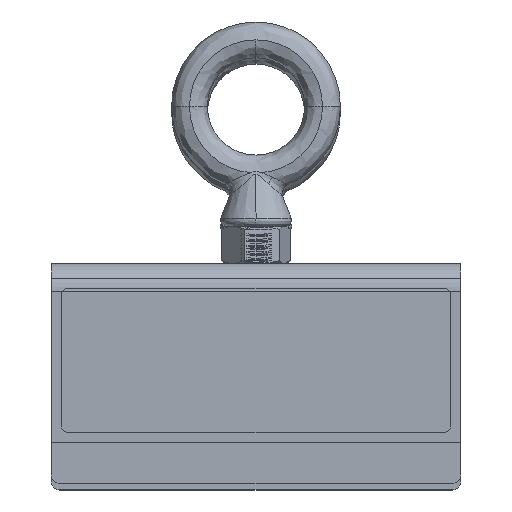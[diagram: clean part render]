
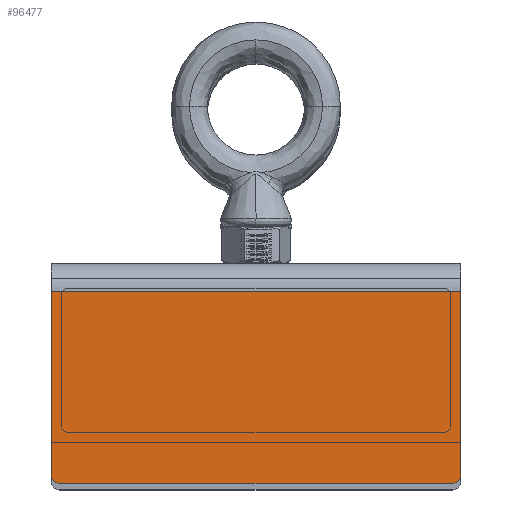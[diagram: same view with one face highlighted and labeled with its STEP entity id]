
A CAD part, top view. The second image highlights one B-rep face of the part: STEP entity #96477.
In plain terms, the highlighted planar face has unit normal (0, 0, 1).
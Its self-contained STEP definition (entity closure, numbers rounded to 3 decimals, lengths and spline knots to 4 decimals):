
#133 = CARTESIAN_POINT ( 'NONE',  ( 2.5, 1., 24.0005 ) ) ;
#2529 = DIRECTION ( 'NONE',  ( 0., 1., 0. ) ) ;
#3835 = VERTEX_POINT ( 'NONE', #30368 ) ;
#4125 = EDGE_LOOP ( 'NONE', ( #114649, #17346, #113183, #45850, #133785, #127035 ) ) ;
#9195 = LINE ( 'NONE', #40102, #62732 ) ;
#11768 = CARTESIAN_POINT ( 'NONE',  ( -2.5, 0.84, 24.0005 ) ) ;
#12325 = CARTESIAN_POINT ( 'NONE',  ( 2.4, -1.5, 24.0005 ) ) ;
#13198 = DIRECTION ( 'NONE',  ( 0., 0., 1. ) ) ;
#13964 = EDGE_CURVE ( 'NONE', #86504, #36439, #33387, .T. ) ;
#16541 = VERTEX_POINT ( 'NONE', #11768 ) ;
#17346 = ORIENTED_EDGE ( 'NONE', *, *, #13964, .T. ) ;
#20020 = VERTEX_POINT ( 'NONE', #39542 ) ;
#24750 = CIRCLE ( 'NONE', #92750, 0.1 ) ;
#26543 = DIRECTION ( 'NONE',  ( 0., -1., 0. ) ) ;
#30368 = CARTESIAN_POINT ( 'NONE',  ( -2.4, -1.5, 24.0005 ) ) ;
#31511 = DIRECTION ( 'NONE',  ( 0., 0., 1. ) ) ;
#33387 = CIRCLE ( 'NONE', #95516, 0.1 ) ;
#36439 = VERTEX_POINT ( 'NONE', #91477 ) ;
#39542 = CARTESIAN_POINT ( 'NONE',  ( 2.5, 0.84, 24.0005 ) ) ;
#39647 = AXIS2_PLACEMENT_3D ( 'NONE', #127734, #31511, #67066 ) ;
#39802 = EDGE_CURVE ( 'NONE', #16541, #20020, #82081, .T. ) ;
#40102 = CARTESIAN_POINT ( 'NONE',  ( -2.5, -1.5, 24.0005 ) ) ;
#41809 = LINE ( 'NONE', #122798, #66995 ) ;
#42190 = PLANE ( 'NONE',  #39647 ) ;
#45850 = ORIENTED_EDGE ( 'NONE', *, *, #39802, .F. ) ;
#46516 = DIRECTION ( 'NONE',  ( 1., 0., 0. ) ) ;
#52369 = FACE_OUTER_BOUND ( 'NONE', #4125, .T. ) ;
#58918 = CARTESIAN_POINT ( 'NONE',  ( -2.5, -1.4, 24.0005 ) ) ;
#59458 = LINE ( 'NONE', #133, #84548 ) ;
#62317 = EDGE_CURVE ( 'NONE', #133747, #3835, #24750, .T. ) ;
#62732 = VECTOR ( 'NONE', #124299, 39.3701 ) ;
#66639 = CARTESIAN_POINT ( 'NONE',  ( -2.5, 0.84, 24.0005 ) ) ;
#66995 = VECTOR ( 'NONE', #26543, 39.3701 ) ;
#67066 = DIRECTION ( 'NONE',  ( 0., 1., 0. ) ) ;
#67147 = EDGE_CURVE ( 'NONE', #3835, #86504, #9195, .T. ) ;
#74419 = EDGE_CURVE ( 'NONE', #16541, #133747, #41809, .T. ) ;
#82081 = LINE ( 'NONE', #66639, #110413 ) ;
#84548 = VECTOR ( 'NONE', #117862, 39.3701 ) ;
#86504 = VERTEX_POINT ( 'NONE', #12325 ) ;
#89011 = DIRECTION ( 'NONE',  ( 0., 1., 0. ) ) ;
#91477 = CARTESIAN_POINT ( 'NONE',  ( 2.5, -1.4, 24.0005 ) ) ;
#92750 = AXIS2_PLACEMENT_3D ( 'NONE', #110427, #13198, #89011 ) ;
#95516 = AXIS2_PLACEMENT_3D ( 'NONE', #129650, #108175, #2529 ) ;
#96477 = ADVANCED_FACE ( 'NONE', ( #52369 ), #42190, .T. ) ;
#102838 = EDGE_CURVE ( 'NONE', #20020, #36439, #59458, .T. ) ;
#108175 = DIRECTION ( 'NONE',  ( 0., 0., 1. ) ) ;
#110413 = VECTOR ( 'NONE', #46516, 39.3701 ) ;
#110427 = CARTESIAN_POINT ( 'NONE',  ( -2.4, -1.4, 24.0005 ) ) ;
#113183 = ORIENTED_EDGE ( 'NONE', *, *, #102838, .F. ) ;
#114649 = ORIENTED_EDGE ( 'NONE', *, *, #67147, .T. ) ;
#117862 = DIRECTION ( 'NONE',  ( 0., -1., 0. ) ) ;
#122798 = CARTESIAN_POINT ( 'NONE',  ( -2.5, 1., 24.0005 ) ) ;
#124299 = DIRECTION ( 'NONE',  ( 1., 0., 0. ) ) ;
#127035 = ORIENTED_EDGE ( 'NONE', *, *, #62317, .T. ) ;
#127734 = CARTESIAN_POINT ( 'NONE',  ( -2.5, 1., 24.0005 ) ) ;
#129650 = CARTESIAN_POINT ( 'NONE',  ( 2.4, -1.4, 24.0005 ) ) ;
#133747 = VERTEX_POINT ( 'NONE', #58918 ) ;
#133785 = ORIENTED_EDGE ( 'NONE', *, *, #74419, .T. ) ;
